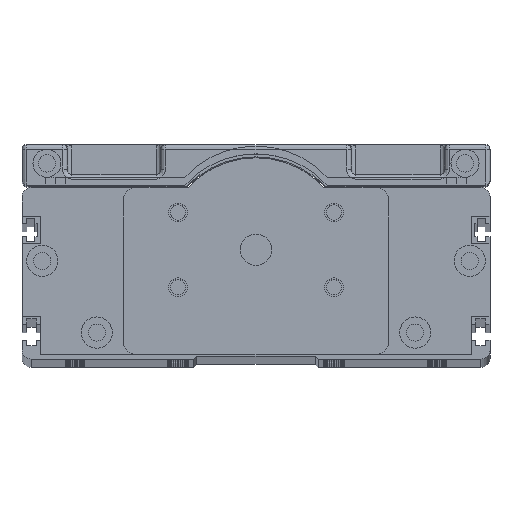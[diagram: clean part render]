
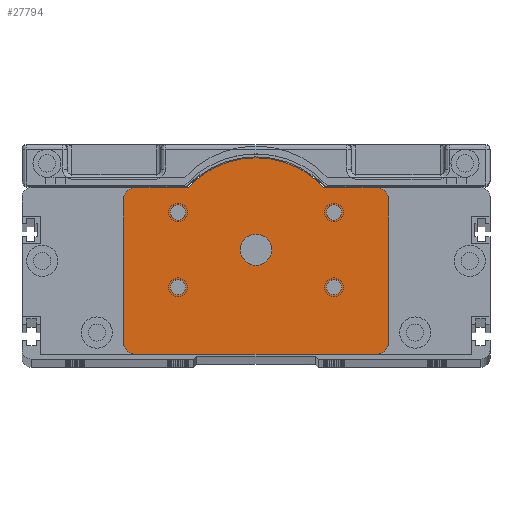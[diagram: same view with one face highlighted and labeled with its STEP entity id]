
A CAD part, top view. The second image highlights one B-rep face of the part: STEP entity #27794.
In plain terms, the highlighted planar face has unit normal (0, 0, 1).
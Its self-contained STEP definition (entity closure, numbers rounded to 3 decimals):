
#26436=CARTESIAN_POINT('',(38.5,49.5,29.));
#26437=DIRECTION('',(0.,0.,1.));
#26438=DIRECTION('',(1.,0.,0.));
#26439=AXIS2_PLACEMENT_3D('',#26436,#26437,#26438);
#26445=CARTESIAN_POINT('',(38.5,4.,29.));
#26446=DIRECTION('',(0.,0.,1.));
#26447=DIRECTION('',(0.,-1.,0.));
#26448=AXIS2_PLACEMENT_3D('',#26445,#26446,#26447);
#26597=CARTESIAN_POINT('',(-38.5,49.5,29.));
#26598=DIRECTION('',(0.,0.,1.));
#26599=DIRECTION('',(0.,1.,0.));
#26600=AXIS2_PLACEMENT_3D('',#26597,#26598,#26599);
#26611=DIRECTION('',(0.,1.,0.));
#26612=VECTOR('',#26611,45.5);
#26613=CARTESIAN_POINT('',(42.5,4.,29.));
#26614=LINE('',#26613,#26612);
#26615=DIRECTION('',(1.,0.,0.));
#26616=VECTOR('',#26615,77.);
#26617=CARTESIAN_POINT('',(-38.5,0.,29.));
#26618=LINE('',#26617,#26616);
#26619=DIRECTION('',(0.,1.,0.));
#26620=VECTOR('',#26619,45.5);
#26621=CARTESIAN_POINT('',(-42.5,4.,29.));
#26622=LINE('',#26621,#26620);
#26623=DIRECTION('',(-1.,0.,0.));
#26624=VECTOR('',#26623,16.815);
#26625=CARTESIAN_POINT('',(-21.685,53.5,29.));
#26626=LINE('',#26625,#26624);
#26627=CARTESIAN_POINT('',(0.,33.5,29.));
#26628=DIRECTION('',(0.,0.,1.));
#26629=DIRECTION('',(0.735,0.678,0.));
#26630=AXIS2_PLACEMENT_3D('',#26627,#26628,#26629);
#26632=DIRECTION('',(-1.,0.,0.));
#26633=VECTOR('',#26632,16.815);
#26634=CARTESIAN_POINT('',(38.5,53.5,29.));
#26635=LINE('',#26634,#26633);
#26636=CARTESIAN_POINT('',(0.,33.5,29.));
#26637=DIRECTION('',(0.,0.,1.));
#26638=DIRECTION('',(1.,0.,0.));
#26639=AXIS2_PLACEMENT_3D('',#26636,#26637,#26638);
#26641=CARTESIAN_POINT('',(0.,33.5,29.));
#26642=DIRECTION('',(0.,0.,1.));
#26643=DIRECTION('',(-1.,0.,0.));
#26644=AXIS2_PLACEMENT_3D('',#26641,#26642,#26643);
#26646=CARTESIAN_POINT('',(25.,45.5,29.));
#26647=DIRECTION('',(0.,0.,-1.));
#26648=DIRECTION('',(-1.,0.,0.));
#26649=AXIS2_PLACEMENT_3D('',#26646,#26647,#26648);
#26651=CARTESIAN_POINT('',(25.,45.5,29.));
#26652=DIRECTION('',(0.,0.,-1.));
#26653=DIRECTION('',(1.,0.,0.));
#26654=AXIS2_PLACEMENT_3D('',#26651,#26652,#26653);
#26656=CARTESIAN_POINT('',(25.,21.5,29.));
#26657=DIRECTION('',(0.,0.,1.));
#26658=DIRECTION('',(-1.,0.,0.));
#26659=AXIS2_PLACEMENT_3D('',#26656,#26657,#26658);
#26661=CARTESIAN_POINT('',(25.,21.5,29.));
#26662=DIRECTION('',(0.,0.,1.));
#26663=DIRECTION('',(1.,0.,0.));
#26664=AXIS2_PLACEMENT_3D('',#26661,#26662,#26663);
#26666=CARTESIAN_POINT('',(-25.,45.5,29.));
#26667=DIRECTION('',(0.,0.,1.));
#26668=DIRECTION('',(1.,0.,0.));
#26669=AXIS2_PLACEMENT_3D('',#26666,#26667,#26668);
#26671=CARTESIAN_POINT('',(-25.,45.5,29.));
#26672=DIRECTION('',(0.,0.,1.));
#26673=DIRECTION('',(-1.,0.,0.));
#26674=AXIS2_PLACEMENT_3D('',#26671,#26672,#26673);
#26676=CARTESIAN_POINT('',(-25.,21.5,29.));
#26677=DIRECTION('',(0.,0.,-1.));
#26678=DIRECTION('',(1.,0.,0.));
#26679=AXIS2_PLACEMENT_3D('',#26676,#26677,#26678);
#26681=CARTESIAN_POINT('',(-25.,21.5,29.));
#26682=DIRECTION('',(0.,0.,-1.));
#26683=DIRECTION('',(-1.,0.,0.));
#26684=AXIS2_PLACEMENT_3D('',#26681,#26682,#26683);
#26699=CARTESIAN_POINT('',(-38.5,4.,29.));
#26700=DIRECTION('',(0.,0.,1.));
#26701=DIRECTION('',(-1.,0.,0.));
#26702=AXIS2_PLACEMENT_3D('',#26699,#26700,#26701);
#26928=CARTESIAN_POINT('',(21.685,53.5,29.));
#26929=CARTESIAN_POINT('',(-21.685,53.5,29.));
#26930=VERTEX_POINT('',#26928);
#26931=VERTEX_POINT('',#26929);
#26976=CARTESIAN_POINT('',(38.5,53.5,29.));
#26978=VERTEX_POINT('',#26976);
#26980=CARTESIAN_POINT('',(42.5,49.5,29.));
#26982=VERTEX_POINT('',#26980);
#26985=CARTESIAN_POINT('',(38.5,0.,29.));
#26987=VERTEX_POINT('',#26985);
#26988=CARTESIAN_POINT('',(42.5,4.,29.));
#26989=VERTEX_POINT('',#26988);
#26993=CARTESIAN_POINT('',(-38.5,53.5,29.));
#26995=VERTEX_POINT('',#26993);
#26996=CARTESIAN_POINT('',(-42.5,49.5,29.));
#26997=VERTEX_POINT('',#26996);
#27000=CARTESIAN_POINT('',(-38.5,0.,29.));
#27002=VERTEX_POINT('',#27000);
#27004=CARTESIAN_POINT('',(-42.5,4.,29.));
#27006=VERTEX_POINT('',#27004);
#27016=CARTESIAN_POINT('',(22.5,45.5,29.));
#27017=CARTESIAN_POINT('',(27.5,45.5,29.));
#27018=VERTEX_POINT('',#27016);
#27019=VERTEX_POINT('',#27017);
#27024=CARTESIAN_POINT('',(22.5,21.5,29.));
#27025=CARTESIAN_POINT('',(27.5,21.5,29.));
#27026=VERTEX_POINT('',#27024);
#27027=VERTEX_POINT('',#27025);
#27032=CARTESIAN_POINT('',(-22.5,45.5,29.));
#27033=CARTESIAN_POINT('',(-27.5,45.5,29.));
#27034=VERTEX_POINT('',#27032);
#27035=VERTEX_POINT('',#27033);
#27040=CARTESIAN_POINT('',(-22.5,21.5,29.));
#27041=CARTESIAN_POINT('',(-27.5,21.5,29.));
#27042=VERTEX_POINT('',#27040);
#27043=VERTEX_POINT('',#27041);
#27164=CARTESIAN_POINT('',(5.,33.5,29.));
#27165=CARTESIAN_POINT('',(-5.,33.5,29.));
#27166=VERTEX_POINT('',#27164);
#27167=VERTEX_POINT('',#27165);
#27744=CARTESIAN_POINT('',(0.,0.,29.));
#27745=DIRECTION('',(0.,0.,1.));
#27746=DIRECTION('',(1.,0.,0.));
#27747=AXIS2_PLACEMENT_3D('',#27744,#27745,#27746);
#27748=PLANE('',#27747);
#27749=ORIENTED_EDGE('',*,*,#27484,.F.);
#27750=ORIENTED_EDGE('',*,*,#27498,.F.);
#27751=ORIENTED_EDGE('',*,*,#27510,.F.);
#27752=ORIENTED_EDGE('',*,*,#27528,.F.);
#27754=ORIENTED_EDGE('',*,*,#27753,.F.);
#27756=ORIENTED_EDGE('',*,*,#27755,.T.);
#27757=ORIENTED_EDGE('',*,*,#27736,.F.);
#27758=ORIENTED_EDGE('',*,*,#27470,.F.);
#27760=ORIENTED_EDGE('',*,*,#27759,.F.);
#27761=ORIENTED_EDGE('',*,*,#27438,.F.);
#27762=EDGE_LOOP('',(#27749,#27750,#27751,#27752,#27754,#27756,#27757,#27758,
#27760,#27761));
#27763=FACE_OUTER_BOUND('',#27762,.F.);
#27765=ORIENTED_EDGE('',*,*,#27764,.T.);
#27767=ORIENTED_EDGE('',*,*,#27766,.T.);
#27768=EDGE_LOOP('',(#27765,#27767));
#27769=FACE_BOUND('',#27768,.F.);
#27771=ORIENTED_EDGE('',*,*,#27770,.F.);
#27773=ORIENTED_EDGE('',*,*,#27772,.F.);
#27774=EDGE_LOOP('',(#27771,#27773));
#27775=FACE_BOUND('',#27774,.F.);
#27777=ORIENTED_EDGE('',*,*,#27776,.T.);
#27779=ORIENTED_EDGE('',*,*,#27778,.T.);
#27780=EDGE_LOOP('',(#27777,#27779));
#27781=FACE_BOUND('',#27780,.F.);
#27783=ORIENTED_EDGE('',*,*,#27782,.T.);
#27785=ORIENTED_EDGE('',*,*,#27784,.T.);
#27786=EDGE_LOOP('',(#27783,#27785));
#27787=FACE_BOUND('',#27786,.F.);
#27789=ORIENTED_EDGE('',*,*,#27788,.F.);
#27791=ORIENTED_EDGE('',*,*,#27790,.F.);
#27792=EDGE_LOOP('',(#27789,#27791));
#27793=FACE_BOUND('',#27792,.F.);
#27794=ADVANCED_FACE('',(#27763,#27769,#27775,#27781,#27787,#27793),#27748,.T.);
#26440=CIRCLE('',#26439,4.);
#26449=CIRCLE('',#26448,4.);
#26601=CIRCLE('',#26600,4.);
#26631=CIRCLE('',#26630,29.5);
#26640=CIRCLE('',#26639,5.);
#26645=CIRCLE('',#26644,5.);
#26650=CIRCLE('',#26649,2.5);
#26655=CIRCLE('',#26654,2.5);
#26660=CIRCLE('',#26659,2.5);
#26665=CIRCLE('',#26664,2.5);
#26670=CIRCLE('',#26669,2.5);
#26675=CIRCLE('',#26674,2.5);
#26680=CIRCLE('',#26679,2.5);
#26685=CIRCLE('',#26684,2.5);
#26703=CIRCLE('',#26702,4.);
#27438=EDGE_CURVE('',#26978,#26930,#26635,.T.);
#27470=EDGE_CURVE('',#26931,#26995,#26626,.T.);
#27484=EDGE_CURVE('',#26982,#26978,#26440,.T.);
#27498=EDGE_CURVE('',#26989,#26982,#26614,.T.);
#27510=EDGE_CURVE('',#26987,#26989,#26449,.T.);
#27528=EDGE_CURVE('',#27002,#26987,#26618,.T.);
#27736=EDGE_CURVE('',#26995,#26997,#26601,.T.);
#27753=EDGE_CURVE('',#27006,#27002,#26703,.T.);
#27755=EDGE_CURVE('',#27006,#26997,#26622,.T.);
#27759=EDGE_CURVE('',#26930,#26931,#26631,.T.);
#27764=EDGE_CURVE('',#27166,#27167,#26640,.T.);
#27766=EDGE_CURVE('',#27167,#27166,#26645,.T.);
#27770=EDGE_CURVE('',#27018,#27019,#26650,.T.);
#27772=EDGE_CURVE('',#27019,#27018,#26655,.T.);
#27776=EDGE_CURVE('',#27026,#27027,#26660,.T.);
#27778=EDGE_CURVE('',#27027,#27026,#26665,.T.);
#27782=EDGE_CURVE('',#27034,#27035,#26670,.T.);
#27784=EDGE_CURVE('',#27035,#27034,#26675,.T.);
#27788=EDGE_CURVE('',#27042,#27043,#26680,.T.);
#27790=EDGE_CURVE('',#27043,#27042,#26685,.T.);
